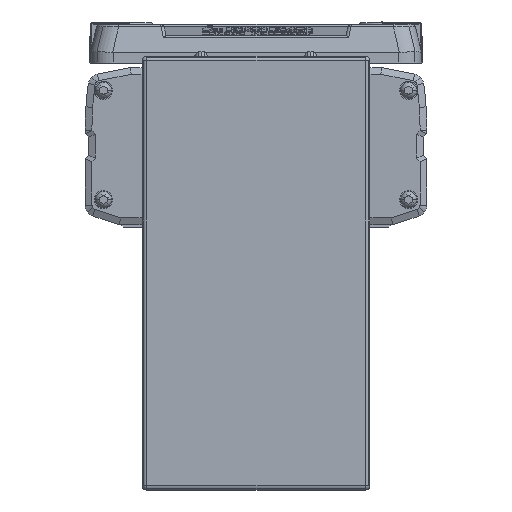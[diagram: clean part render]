
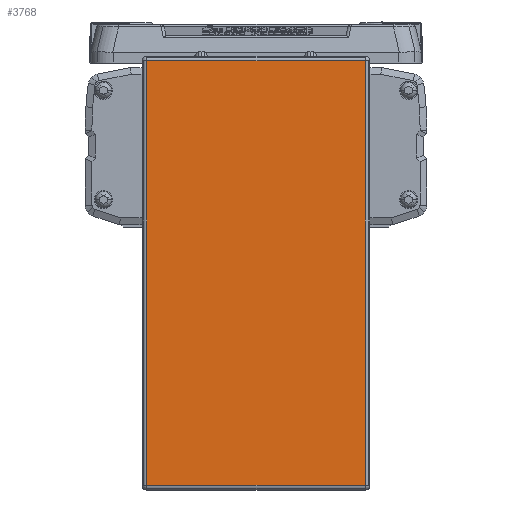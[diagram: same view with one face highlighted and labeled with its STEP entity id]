
A CAD part, left-side view. The second image highlights one B-rep face of the part: STEP entity #3768.
In plain terms, the highlighted planar face has unit normal (-1, 0, 0).
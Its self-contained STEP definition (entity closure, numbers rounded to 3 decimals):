
#3768=ADVANCED_FACE('',(#8724),#8725,.T.);
#8724=FACE_OUTER_BOUND('',#15511,.T.);
#8725=PLANE('',#15512);
#15511=EDGE_LOOP('',(#26684,#26685,#26686,#26687));
#15512=AXIS2_PLACEMENT_3D('',#26688,#26689,#26690);
#26684=ORIENTED_EDGE('',*,*,#42296,.F.);
#26685=ORIENTED_EDGE('',*,*,#42297,.F.);
#26686=ORIENTED_EDGE('',*,*,#40222,.F.);
#26687=ORIENTED_EDGE('',*,*,#42298,.F.);
#26688=CARTESIAN_POINT('',(-45.,0.,-64.2));
#26689=DIRECTION('',(-1.0,0.,0.));
#26690=DIRECTION('',(0.,1.0,0.));
#40222=EDGE_CURVE('',#48296,#48298,#48299,.T.);
#42296=EDGE_CURVE('',#51638,#51639,#51640,.T.);
#42297=EDGE_CURVE('',#48298,#51638,#51641,.T.);
#42298=EDGE_CURVE('',#51639,#48296,#51642,.T.);
#48296=VERTEX_POINT('',#59497);
#48298=VERTEX_POINT('',#59499);
#48299=LINE('',#59500,#59501);
#51638=VERTEX_POINT('',#64123);
#51639=VERTEX_POINT('',#64124);
#51640=LINE('',#64125,#64126);
#51641=LINE('',#64127,#64128);
#51642=LINE('',#64129,#64130);
#59497=CARTESIAN_POINT('',(-45.,-48.,-157.4));
#59499=CARTESIAN_POINT('',(-45.,48.,-157.4));
#59500=CARTESIAN_POINT('',(-45.,0.,-157.4));
#59501=VECTOR('',#72716,10.0);
#64123=CARTESIAN_POINT('',(-45.,48.,29.));
#64124=CARTESIAN_POINT('',(-45.,-48.,29.));
#64125=CARTESIAN_POINT('',(-45.,0.,29.));
#64126=VECTOR('',#75467,10.0);
#64127=CARTESIAN_POINT('',(-45.,48.,-64.2));
#64128=VECTOR('',#75468,10.0);
#64129=CARTESIAN_POINT('',(-45.,-48.,-64.2));
#64130=VECTOR('',#75469,10.0);
#72716=DIRECTION('',(0.0,1.0,0.));
#75467=DIRECTION('',(0.0,-1.0,0.));
#75468=DIRECTION('',(0.,0.,1.0));
#75469=DIRECTION('',(0.,0.,-1.0));
